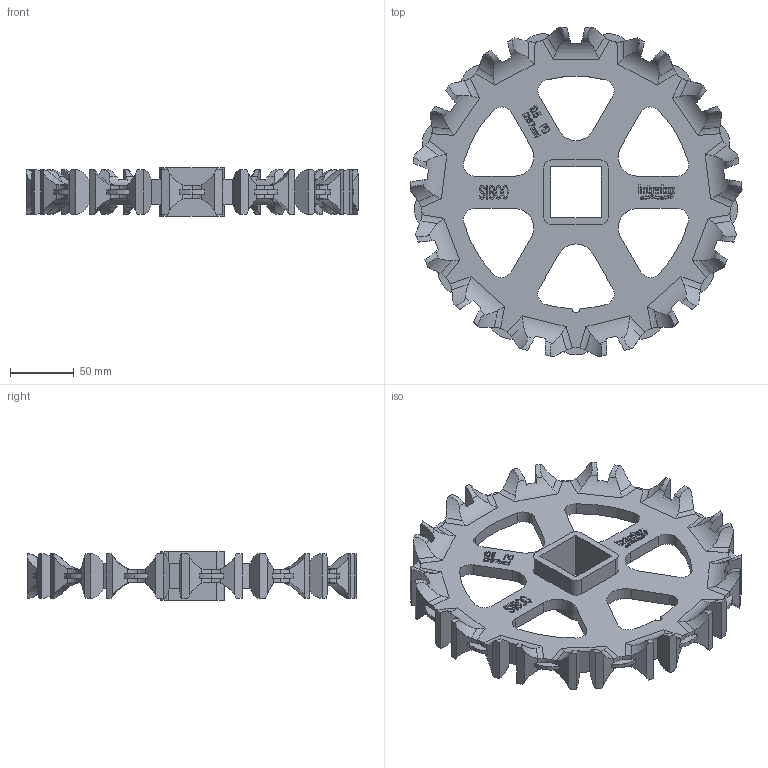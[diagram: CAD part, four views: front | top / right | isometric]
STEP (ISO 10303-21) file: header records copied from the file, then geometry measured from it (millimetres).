
FILE_DESCRIPTION((''),'2;1');
FILE_NAME('S1800_EZCLEAN_105X15_40_SQ','2008-12-12T',('jmumphre'),(''),'PRO/ENGINEER BY PARAMETRIC TECHNOLOGY CORPORATION, 2008150','PRO/ENGINEER BY PARAMETRIC TECHNOLOGY CORPORATION, 2008150','');
FILE_SCHEMA(('CONFIG_CONTROL_DESIGN'));
Length unit declared in the file: inch
Products named in the file (1): S1800_EZCLEAN_105X15_40_SQ
Bounding box: 261.07 x 259.16 x 38.1 mm (x, y, z)
Volume: 441175.3 mm3; surface area: 122955.7 mm2
Topology: 1 solids, 1 shells, 1243 faces, 3539 edges, 2342 vertices
Faces by surface type: plane 860, cylinder 383
Entity records: 42113 total; most frequent: CARTESIAN_POINT 10102, ORIENTED_EDGE 7078, DIRECTION 6011, EDGE_CURVE 3539, VECTOR 2721, LINE 2721, VERTEX_POINT 2342, AXIS2_PLACEMENT_3D 1645
